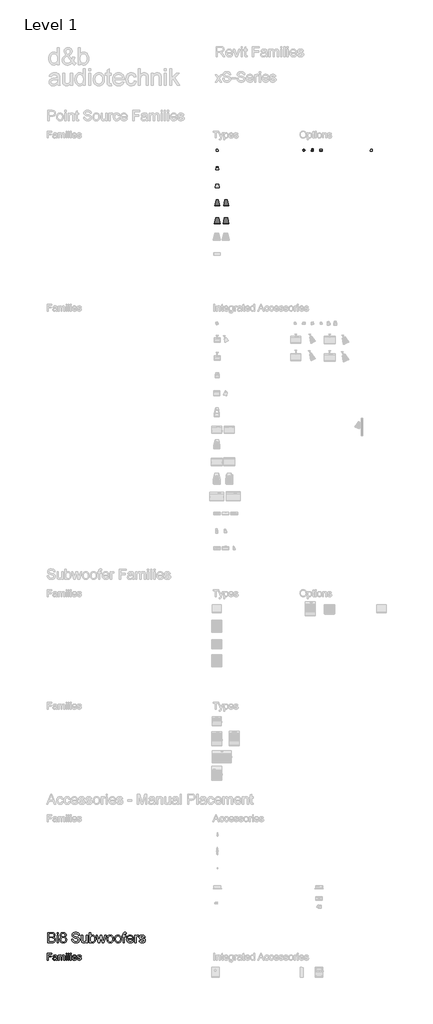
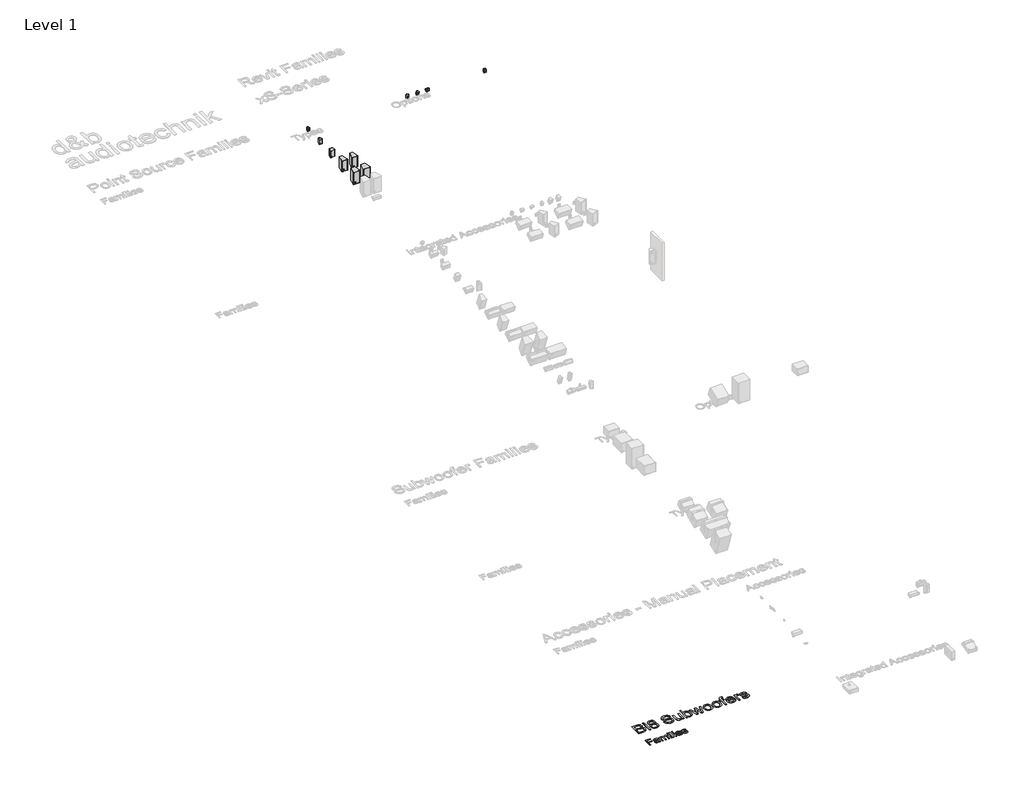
# One storey, part 2 of 12: 13 proxies.
"""IFC4 building model written with IfcOpenShell, lengths in millimetres."""

from ifc_helpers import new_model, si_unit, origin, origin_with_axes, place, context, project, spatial, polyline, outline, extrude, transform, mapped, element, save
from components import proxy_10s_97c97104, proxy_12s_5242e5fb, proxy_4s_3c42d015, proxy_4s_407254ed, proxy_4s_222f0351, proxy_4s_959aaee8, proxy_5s_5bde0faa, proxy_8s_ff0c01f1

model = new_model("IFC4")

# Units and contexts
model_context = context("Model", 3, world=origin())
ifc_project = project(units=[si_unit("LENGTHUNIT", "METRE", prefix="MILLI")], contexts=[model_context])

# Site, building, storey
site = spatial("IfcSite", under=ifc_project)
building = spatial("IfcBuilding", under=site)
storey = spatial("IfcBuildingStorey", under=building, Name="Level 1", Elevation=0.0)

# Proxies
placement = place(None, origin())
proxy_10s_shape = proxy_10s_97c97104(model_context)
element("IfcBuildingElementProxy", 1, Name="d&b xS-Series 10S Point Source : 10S-D", ObjectType="d&b xS-Series 10S Point Source : 10S-D", at=placement, inside=storey, context=model_context, shape_type="MappedRepresentation", body=[
    mapped(proxy_10s_shape, transform((-10731.9323727, 13546.5012301, 1000.0), x_axis=(1.0, 0.0, 0.0), y_axis=(0.0, 1.0, 0.0), z_axis=(0.0, 0.0, 1.0))),
])
proxy_12s_shape = proxy_12s_5242e5fb(model_context)
element("IfcBuildingElementProxy", 2, Name="d&b xS-Series 12S Point Source : 12S-D", ObjectType="d&b xS-Series 12S Point Source : 12S-D", at=placement, inside=storey, context=model_context, shape_type="MappedRepresentation", body=[
    mapped(proxy_12s_shape, transform((-10731.9323727, 12564.0992973, 1000.0), x_axis=(1.0, 0.0, 0.0), y_axis=(0.0, 1.0, 0.0), z_axis=(0.0, 0.0, 1.0))),
])
element("IfcBuildingElementProxy", 3, Name="d&b xS-Series 10S Point Source : 10S", ObjectType="d&b xS-Series 10S Point Source : 10S", at=placement, inside=storey, context=model_context, shape_type="MappedRepresentation", body=[
    mapped(proxy_10s_shape, transform((-11241.6434304, 13546.5012301, 1000.0), x_axis=(1.0, 0.0, 0.0), y_axis=(0.0, 1.0, 0.0), z_axis=(0.0, 0.0, 1.0))),
])
element("IfcBuildingElementProxy", 4, Name="d&b xS-Series 12S Point Source : 12S", ObjectType="d&b xS-Series 12S Point Source : 12S", at=placement, inside=storey, context=model_context, shape_type="MappedRepresentation", body=[
    mapped(proxy_12s_shape, transform((-11241.6434304, 12564.0992973, 1000.0), x_axis=(1.0, 0.0, 0.0), y_axis=(0.0, 1.0, 0.0), z_axis=(0.0, 0.0, 1.0))),
])
element("IfcBuildingElementProxy", 5, Name="400mm Arial", ObjectType="400mm Arial", at=placement, inside=storey, context=model_context, shape_type="SweptSolid", body=[
    extrude(outline(polyline([(-21056.720891, -30148.6945164), (-21056.720891, -29756.9369407), (-20793.5087698, -29756.9369407), (-20793.5087698, -29805.9066376), (-21007.7511941, -29805.9066376), (-21007.7511941, -29922.2096679), (-20824.1148304, -29922.2096679), (-20824.1148304, -29971.1793649), (-21007.7511941, -29971.1793649), (-21007.7511941, -30148.6945164), (-21056.720891, -30148.6945164)])), origin_with_axes(), (0.0, 0.0, 1.0), 5.0),
    extrude(outline(polyline([(-20548.660285, -30111.9672437), (-20572.0571836, -30132.02856), (-20596.1475009, -30145.1556907), (-20621.4811893, -30152.4007191), (-20648.6082016, -30154.8157285), (-20670.4120309, -30153.3631362), (-20689.5318522, -30149.0053592), (-20705.9676654, -30141.7423976), (-20719.7194706, -30131.5742513), (-20730.5780466, -30119.1465169), (-20738.3341723, -30105.104791), (-20742.9878477, -30089.4490737), (-20744.5390729, -30072.1793649), (-20742.1957963, -30051.8789388), (-20735.1659668, -30033.4435695), (-20724.3223352, -30017.6623195), (-20710.5376524, -30005.3242513), (-20676.2493001, -29989.2560695), (-20633.879035, -29981.8914861), (-20583.8094327, -29974.144327), (-20548.9472168, -29965.0581528), (-20548.660285, -29954.1547437), (-20552.0317338, -29932.3001035), (-20562.1460804, -29918.0013346), (-20584.7658721, -29907.3848573), (-20616.2805501, -29903.8460316), (-20645.4519516, -29906.2012636), (-20665.8241107, -29913.2669596), (-20679.7163929, -29926.3343128), (-20689.4481638, -29946.6945164), (-20738.4178607, -29940.5733043), (-20729.9175056, -29913.7930013), (-20717.2327282, -29892.7513346), (-20699.1799346, -29876.6592418), (-20674.5755312, -29864.7276604), (-20644.4835568, -29857.339166), (-20609.9680501, -29854.8763346), (-20576.8632916, -29857.0522342), (-20550.6209857, -29863.5799331), (-20530.8346458, -29873.3953924), (-20517.097785, -29885.4345732), (-20507.9876997, -29900.3191613), (-20502.0816865, -29918.6708422), (-20499.690588, -29961.519327), (-20499.690588, -30022.4445164), (-20497.2038456, -30107.5198005), (-20487.4481638, -30148.6945164), (-20536.4178607, -30148.6945164), (-20544.2606638, -30131.6698952), (-20548.660285, -30111.9672437)]), holes=[polyline([(-20548.660285, -30014.0278498), (-20581.5618001, -30022.1814956), (-20627.6621789, -30029.0439482), (-20669.7933342, -30036.9823952), (-20680.7565208, -30042.4101888), (-20688.8743001, -30049.894327), (-20693.8956069, -30058.8609464), (-20695.5693759, -30068.7361831), (-20691.9229507, -30083.2979729), (-20680.9836751, -30095.2295543), (-20662.990659, -30103.1919123), (-20638.1830122, -30105.8460316), (-20611.8809289, -30102.9169359), (-20588.6394516, -30094.129649), (-20569.7975956, -30081.1818507), (-20556.6943759, -30065.771221), (-20550.8840066, -30049.894327), (-20548.9472168, -30027.896221), (-20548.660285, -30014.0278498)])]), origin_with_axes(), (0.0, 0.0, 1.0), 5.0),
    extrude(outline(polyline([(-20432.3572547, -30148.6945164), (-20432.3572547, -29860.9975467), (-20383.3875577, -29860.9975467), (-20383.3875577, -29908.3412967), (-20368.658391, -29886.594256), (-20349.720891, -29869.5576793), (-20327.2206543, -29858.5466708), (-20301.8032774, -29854.8763346), (-20274.5686657, -29858.6184037), (-20252.7379365, -29869.8446111), (-20236.4306448, -29887.8137162), (-20225.7663456, -29911.7844785), (-20207.9167954, -29886.8871656), (-20187.5565918, -29869.1033706), (-20164.6857348, -29858.4330936), (-20139.3042244, -29854.8763346), (-20119.7002057, -29856.3558268), (-20102.4932632, -29860.7943034), (-20087.683397, -29868.1917643), (-20075.2706069, -29878.5482096), (-20065.4581365, -29891.9831942), (-20058.4492291, -29908.6162731), (-20054.2438846, -29928.4474461), (-20052.8421032, -29951.4767134), (-20052.8421032, -30148.6945164), (-20101.8118001, -30148.6945164), (-20101.8118001, -29972.5183801), (-20106.3548872, -29931.630596), (-20112.7391202, -29920.3565666), (-20122.8056448, -29911.4975467), (-20135.7534431, -29905.7589104), (-20150.7814971, -29903.8460316), (-20177.3107348, -29908.7477835), (-20198.9382206, -29923.4530392), (-20207.3279874, -29934.7330463), (-20213.320678, -29948.96606), (-20218.1148304, -29986.2911073), (-20218.1148304, -30148.6945164), (-20267.0845274, -30148.6945164), (-20267.0845274, -29967.0666755), (-20269.9179791, -29939.3777551), (-20278.4183342, -29919.6272816), (-20293.3746552, -29907.7913441), (-20315.5760047, -29903.8460316), (-20334.4417717, -29906.4762399), (-20351.8250577, -29914.3668649), (-20366.1716486, -29927.3266187), (-20375.9273304, -29945.1642134), (-20381.5225009, -29969.9120827), (-20383.3875577, -30003.6026604), (-20383.3875577, -30148.6945164), (-20432.3572547, -30148.6945164)])), origin_with_axes(), (0.0, 0.0, 1.0), 5.0),
    extrude(outline(polyline([(-19979.3875577, -30148.6945164), (-19979.3875577, -29860.9975467), (-19930.4178607, -29860.9975467), (-19930.4178607, -30148.6945164), (-19979.3875577, -30148.6945164)])), origin_with_axes(), (0.0, 0.0, 1.0), 5.0),
    extrude(outline(polyline([(-19979.3875577, -29805.9066376), (-19979.3875577, -29756.9369407), (-19930.4178607, -29756.9369407), (-19930.4178607, -29805.9066376), (-19979.3875577, -29805.9066376)])), origin_with_axes(), (0.0, 0.0, 1.0), 5.0),
    extrude(outline(polyline([(-19856.9633153, -30148.6945164), (-19856.9633153, -29756.9369407), (-19807.9936183, -29756.9369407), (-19807.9936183, -30148.6945164), (-19856.9633153, -30148.6945164)])), origin_with_axes(), (0.0, 0.0, 1.0), 5.0),
    extrude(outline(polyline([(-19734.5390729, -30148.6945164), (-19734.5390729, -29860.9975467), (-19685.5693759, -29860.9975467), (-19685.5693759, -30148.6945164), (-19734.5390729, -30148.6945164)])), origin_with_axes(), (0.0, 0.0, 1.0), 5.0),
    extrude(outline(polyline([(-19734.5390729, -29805.9066376), (-19734.5390729, -29756.9369407), (-19685.5693759, -29756.9369407), (-19685.5693759, -29805.9066376), (-19734.5390729, -29805.9066376)])), origin_with_axes(), (0.0, 0.0, 1.0), 5.0),
    extrude(outline(polyline([(-19410.6886941, -30062.9975467), (-19362.6754365, -30069.1187589), (-19370.0370309, -30088.3491684), (-19379.975034, -30105.2960789), (-19392.4894457, -30119.9594904), (-19407.580266, -30132.3394028), (-19425.0920736, -30142.1727953), (-19444.8694469, -30149.1966471), (-19491.220891, -30154.8157285), (-19521.605775, -30152.3917525), (-19548.6789876, -30145.1198242), (-19572.4405288, -30132.9999437), (-19592.8903986, -30116.0321111), (-19609.3351784, -30094.6885683), (-19621.0814497, -30069.4415571), (-19628.1292125, -30040.2910777), (-19630.4784668, -30007.2371301), (-19628.1053015, -29973.062355), (-19620.9858058, -29942.9404918), (-19609.1199796, -29916.8715406), (-19592.5078229, -29894.8555013), (-19572.1117528, -29877.3646159), (-19548.8941865, -29864.8711263), (-19522.855124, -29857.3750325), (-19493.9945653, -29854.8763346), (-19466.0635461, -29857.3690548), (-19440.8045795, -29864.8472153), (-19418.2176654, -29877.3108161), (-19398.3028039, -29894.7598573), (-19382.0463231, -29916.7280747), (-19370.4345511, -29942.7492039), (-19363.4674879, -29972.8232451), (-19361.1451335, -30006.9501982), (-19361.4320653, -30020.1490619), (-19581.5087698, -30020.1490619), (-19578.6723292, -30039.6903142), (-19573.0323257, -30056.8046017), (-19564.5887592, -30071.4919241), (-19553.3416297, -30083.7522816), (-19524.9234242, -30100.3225941), (-19490.2644516, -30105.8460316), (-19464.2014782, -30103.2875562), (-19442.2511941, -30095.6121301), (-19424.4135994, -30082.3415335), (-19410.6886941, -30062.9975467)]), holes=[polyline([(-19581.5087698, -29971.1793649), (-19410.1148304, -29971.1793649), (-19416.7381732, -29945.3076793), (-19429.721838, -29926.800577), (-19443.076123, -29916.7579634), (-19458.2715539, -29909.5846679), (-19494.1858532, -29903.8460316), (-19527.1949677, -29908.4249852), (-19554.4893569, -29922.161846), (-19573.4627234, -29943.5741329), (-19581.5087698, -29971.1793649)])]), origin_with_axes(), (0.0, 0.0, 1.0), 5.0),
    extrude(outline(polyline([(-19330.5390729, -30062.9975467), (-19281.5693759, -30056.8763346), (-19273.8461278, -30077.8223573), (-19258.9017622, -30093.2210316), (-19236.6406354, -30102.6897816), (-19206.9671032, -30105.8460316), (-19177.6522357, -30102.9528024), (-19157.0409668, -30094.2731149), (-19144.8463645, -30081.6959369), (-19140.7814971, -30067.1102361), (-19144.8702755, -30054.628702), (-19157.1366107, -30045.1121301), (-19207.5409668, -30031.1481149), (-19281.2824441, -30007.1893081), (-19299.9449677, -29995.1501272), (-19313.4666297, -29979.2134558), (-19321.680053, -29960.3955107), (-19324.4178607, -29939.7125089), (-19322.2180501, -29920.7391424), (-19315.6186183, -29903.224346), (-19305.2173399, -29887.8615382), (-19291.6119895, -29875.3441376), (-19260.4798872, -29860.8540808), (-19218.3487319, -29854.8763346), (-19186.4753891, -29857.2793886), (-19158.7625577, -29864.4885505), (-19136.4775198, -29875.7984464), (-19120.8875577, -29890.503702), (-19110.5580122, -29909.6922674), (-19104.0542244, -29934.4520922), (-19153.0239213, -29940.5733043), (-19159.2049109, -29925.1626746), (-19171.4353797, -29913.5538914), (-19189.8348825, -29906.2729965), (-19214.5229744, -29903.8460316), (-19242.6422925, -29906.1653971), (-19261.3885047, -29913.1234937), (-19271.933249, -29923.1661073), (-19275.4481638, -29934.739024), (-19269.6138835, -29948.989971), (-19251.345891, -29959.7977361), (-19209.1669138, -29970.2229255), (-19137.2904933, -29993.2731149), (-19118.3051713, -30004.2960789), (-19103.9107585, -30019.3839104), (-19094.8365397, -30038.5844312), (-19091.8118001, -30061.9454634), (-19095.3625814, -30086.0955581), (-19106.0149251, -30108.8109937), (-19123.3623446, -30128.3104018), (-19146.9983532, -30142.8124142), (-19175.5480691, -30151.8149), (-19207.6366107, -30154.8157285), (-19233.9924938, -30153.369114), (-19257.0127944, -30149.0292702), (-19276.6975127, -30141.7961973), (-19293.0466486, -30131.6698952), (-19306.4009336, -30118.6981859), (-19317.1010994, -30102.9288914), (-19325.1471458, -30084.3620117), (-19330.5390729, -30062.9975467)])), origin_with_axes(), (0.0, 0.0, 1.0), 5.0),
])
proxy_4s_shape = proxy_4s_3c42d015(model_context)
element("IfcBuildingElementProxy", 6, Name="d&b xS-Series 4S Point Source : 4S", ObjectType="d&b xS-Series 4S Point Source : 4S", at=placement, inside=storey, context=model_context, shape_type="MappedRepresentation", body=[
    mapped(proxy_4s_shape, transform((-11241.6434304, 16646.5012301, 1000.0), x_axis=(1.0, 0.0, 0.0), y_axis=(0.0, 1.0, 0.0), z_axis=(0.0, 0.0, 1.0))),
])
proxy_4s_2_shape = proxy_4s_407254ed(model_context)
element("IfcBuildingElementProxy", 7, Name="d&b xS-Series 4S Point Source : 4S", ObjectType="d&b xS-Series 4S Point Source : 4S", at=placement, inside=storey, context=model_context, shape_type="MappedRepresentation", body=[
    mapped(proxy_4s_2_shape, transform((-6241.6434304, 16646.5012301, 1000.0), x_axis=(1.0, 0.0, 0.0), y_axis=(0.0, 1.0, 0.0), z_axis=(0.0, 0.0, 1.0))),
])
proxy_4s_3_shape = proxy_4s_222f0351(model_context)
element("IfcBuildingElementProxy", 8, Name="d&b xS-Series 4S Point Source : 4S", ObjectType="d&b xS-Series 4S Point Source : 4S", at=placement, inside=storey, context=model_context, shape_type="MappedRepresentation", body=[
    mapped(proxy_4s_3_shape, transform((-5241.6434304, 16646.5012301, 1000.0), x_axis=(1.0, 0.0, 0.0), y_axis=(0.0, 1.0, 0.0), z_axis=(0.0, 0.0, 1.0))),
])
proxy_4s_4_shape = proxy_4s_959aaee8(model_context)
element("IfcBuildingElementProxy", 9, Name="d&b xS-Series 4S Point Source : 4S", ObjectType="d&b xS-Series 4S Point Source : 4S", at=placement, inside=storey, context=model_context, shape_type="MappedRepresentation", body=[
    mapped(proxy_4s_4_shape, transform((-5741.6434304, 16646.5012301, 1000.0), x_axis=(1.0, 0.0, 0.0), y_axis=(0.0, 1.0, 0.0), z_axis=(0.0, 0.0, 1.0))),
])
element("IfcBuildingElementProxy", 10, Name="d&b xS-Series 4S Point Source : 4S", ObjectType="d&b xS-Series 4S Point Source : 4S", at=placement, inside=storey, context=model_context, shape_type="MappedRepresentation", body=[
    mapped(proxy_4s_shape, transform((-2341.6434304, 16646.5012301, 1000.0), x_axis=(1.0, 0.0, 0.0), y_axis=(0.0, 1.0, 0.0), z_axis=(0.0, 0.0, 1.0))),
])
proxy_5s_shape = proxy_5s_5bde0faa(model_context)
element("IfcBuildingElementProxy", 11, Name="d&b xS-Series 5S Point Source : 5S", ObjectType="d&b xS-Series 5S Point Source : 5S", at=placement, inside=storey, context=model_context, shape_type="MappedRepresentation", body=[
    mapped(proxy_5s_shape, transform((-11241.6434304, 15595.5012301, 1000.0), x_axis=(1.0, 0.0, 0.0), y_axis=(0.0, 1.0, 0.0), z_axis=(0.0, 0.0, 1.0))),
])
element("IfcBuildingElementProxy", 12, Name="600mm Arial", ObjectType="600mm Arial", at=placement, inside=storey, context=model_context, shape_type="SweptSolid", body=[
    extrude(outline(polyline([(-21034.9539913, -29148.6945164), (-21034.9539913, -28557.9252857), (-20809.521299, -28557.9252857), (-20747.520097, -28562.2702376), (-20699.1126451, -28575.3050934), (-20662.0092797, -28597.3543722), (-20646.8380057, -28611.881115), (-20633.9203374, -28628.7425934), (-20616.2340393, -28665.6656703), (-20610.3386067, -28704.3195164), (-20615.2965393, -28739.8904299), (-20630.1703374, -28773.3339395), (-20655.068174, -28802.5947568), (-20690.098222, -28825.6175934), (-20667.810061, -28835.1187953), (-20648.2532701, -28847.4685549), (-20631.4278494, -28862.6668722), (-20617.333799, -28880.7137472), (-20606.1964792, -28901.0593001), (-20598.2412509, -28923.153651), (-20593.4681139, -28946.9968001), (-20591.8770682, -28972.5887472), (-20596.2220201, -29013.7846607), (-20609.2568759, -29051.9877857), (-20628.7100009, -29084.4757664), (-20652.3097605, -29108.5262472), (-20681.2100009, -29125.9421126), (-20716.5645682, -29138.5262472), (-20759.5273086, -29146.1524491), (-20811.2520682, -29148.6945164), (-21034.9539913, -29148.6945164)]), holes=[polyline([(-20961.1078374, -28797.9252857), (-20826.2520682, -28797.9252857), (-20779.0886067, -28796.3387472), (-20747.5020682, -28791.5791318), (-20719.9359624, -28780.6356222), (-20700.1222605, -28764.247401), (-20688.1691355, -28742.6668722), (-20684.1847605, -28716.1464395), (-20687.8987028, -28690.4012472), (-20699.0405297, -28667.9733626), (-20717.1054336, -28650.467353), (-20741.5886067, -28639.4877857), (-20779.160722, -28633.700526), (-20836.4924528, -28631.7714395), (-20961.1078374, -28631.7714395), (-20961.1078374, -28797.9252857)]), polyline([(-20961.1078374, -29074.8483626), (-20809.6655297, -29074.8483626), (-20754.8578374, -29071.9637472), (-20729.4191355, -29065.5635068), (-20708.4876451, -29055.8820164), (-20691.4684143, -29042.0178337), (-20677.7664913, -29023.0695164), (-20668.7340393, -28999.8844203), (-20665.723222, -28973.309901), (-20669.2568759, -28942.4445164), (-20679.8578374, -28915.9060549), (-20698.3734624, -28895.154853), (-20725.6511067, -28881.6512472), (-20764.286924, -28874.2413914), (-20816.8770682, -28871.7714395), (-20961.1078374, -28871.7714395), (-20961.1078374, -29074.8483626)])]), origin_with_axes(), (0.0, 0.0, 1.0), 5.0),
    extrude(outline(polyline([(-20499.5693759, -28631.7714395), (-20499.5693759, -28557.9252857), (-20425.723222, -28557.9252857), (-20425.723222, -28631.7714395), (-20499.5693759, -28631.7714395)])), origin_with_axes(), (0.0, 0.0, 1.0), 5.0),
    extrude(outline(polyline([(-20499.5693759, -29148.6945164), (-20499.5693759, -28714.8483626), (-20425.723222, -28714.8483626), (-20425.723222, -29148.6945164), (-20499.5693759, -29148.6945164)])), origin_with_axes(), (0.0, 0.0, 1.0), 5.0),
    extrude(outline(polyline([(-20225.8193759, -28823.309901), (-20265.3566355, -28803.8387472), (-20280.7036908, -28791.5070164), (-20293.1030297, -28777.4445164), (-20309.4912509, -28744.6680741), (-20314.9539913, -28706.0502857), (-20311.9792317, -28675.9330982), (-20303.0549528, -28648.3219203), (-20288.1811547, -28623.216752), (-20267.3578374, -28600.6175934), (-20241.5856018, -28581.9397087), (-20211.865049, -28568.5983626), (-20178.1961788, -28560.5935549), (-20140.5789913, -28557.9252857), (-20102.7815153, -28560.6566559), (-20068.8602413, -28568.8507664), (-20038.8151692, -28582.5076174), (-20012.646299, -28601.6272087), (-19991.4443759, -28624.6680741), (-19976.3001451, -28650.0887472), (-19967.2136067, -28677.889228), (-19964.1847605, -28708.0695164), (-19969.5753855, -28745.4433145), (-19985.7472605, -28777.6608626), (-20012.880674, -28803.8928337), (-20051.1559143, -28823.309901), (-20026.8845802, -28833.6359227), (-20005.7051932, -28846.7293722), (-19987.6177533, -28862.5902496), (-19972.6222605, -28881.2185549), (-19960.8539312, -28902.1996246), (-19952.4479817, -28925.1187953), (-19947.4044119, -28949.9760669), (-19945.723222, -28976.7714395), (-19949.0585586, -29013.6043722), (-19959.0645682, -29047.372401), (-19975.7412509, -29078.075526), (-19999.0886067, -29105.7137472), (-20027.880674, -29128.5562953), (-20060.8914913, -29144.872401), (-20098.1210586, -29154.6620645), (-20139.5693759, -29157.9252857), (-20181.0176932, -29154.6485429), (-20218.2472605, -29144.8183145), (-20251.2580778, -29128.4346006), (-20280.0501451, -29105.497401), (-20303.3975009, -29077.6653698), (-20320.0741836, -29046.5971607), (-20330.0801932, -29012.2927736), (-20333.4155297, -28974.7522087), (-20331.6667317, -28946.7353818), (-20326.4203374, -28921.0983626), (-20317.676347, -28897.841151), (-20305.4347605, -28876.9637472), (-20289.9660105, -28858.8447568), (-20271.5405297, -28843.8627857), (-20250.1583182, -28832.0178337), (-20225.8193759, -28823.309901)]), holes=[polyline([(-20259.5693759, -28972.1560549), (-20256.4864432, -29000.4072568), (-20247.2376451, -29027.7570164), (-20230.1643278, -29051.6091799), (-20203.6078374, -29069.3675934), (-20171.8049528, -29080.4012472), (-20138.9924528, -29084.0791318), (-20112.2917317, -29082.1455381), (-20088.7280297, -29076.3447568), (-20068.301347, -29066.6767881), (-20051.0116836, -29053.1416318), (-20037.255674, -29036.6227015), (-20027.4299528, -29018.0034107), (-20021.5345201, -28997.2837592), (-20019.5693759, -28974.4637472), (-20021.5976211, -28951.278651), (-20027.6823567, -28930.184901), (-20037.8235826, -28911.1824972), (-20052.021299, -28894.2714395), (-20069.7797124, -28880.389228), (-20090.6030297, -28870.4733626), (-20114.4912509, -28864.5238434), (-20141.4443759, -28862.5406703), (-20167.7529696, -28864.4968001), (-20191.005674, -28870.3651895), (-20211.2024889, -28880.1458385), (-20228.3434143, -28893.8387472), (-20242.0047725, -28910.4703578), (-20251.7628855, -28929.0671126), (-20257.6177533, -28949.6290116), (-20259.5693759, -28972.1560549)]), polyline([(-20241.1078374, -28708.2137472), (-20239.4717196, -28725.1428337), (-20234.5633663, -28740.4493241), (-20226.3827773, -28754.1332184), (-20214.9299528, -28766.1945164), (-20200.3491235, -28776.0382664), (-20182.7845201, -28783.0695164), (-20138.7039913, -28788.6945164), (-20095.6511067, -28783.1055741), (-20078.3975009, -28776.1193962), (-20063.9924528, -28766.3387472), (-20052.6342797, -28754.529853), (-20044.521299, -28741.4589395), (-20039.6535105, -28727.1260068), (-20038.0309143, -28711.5310549), (-20039.707597, -28695.3276294), (-20044.7376451, -28680.467353), (-20053.1210586, -28666.9502256), (-20064.8578374, -28654.7762472), (-20079.5874047, -28644.7116438), (-20096.9491836, -28637.5226414), (-20116.943174, -28633.20924), (-20139.5693759, -28631.7714395), (-20182.4600009, -28637.3964395), (-20199.8353014, -28644.4276895), (-20214.4972605, -28654.2714395), (-20226.1393879, -28666.0803337), (-20234.4551932, -28679.0070164), (-20239.4446764, -28693.0514876), (-20241.1078374, -28708.2137472)])]), origin_with_axes(), (0.0, 0.0, 1.0), 5.0),
    extrude(outline(polyline([(-19650.3386067, -28945.6175934), (-19576.4924528, -28945.6175934), (-19568.0188951, -28986.5971607), (-19552.6943759, -29019.5358626), (-19528.7881259, -29045.6776895), (-19494.5693759, -29066.2666318), (-19452.7424528, -29079.6260068), (-19406.0116836, -29084.0791318), (-19364.8698567, -29080.7077376), (-19328.848222, -29070.5935549), (-19299.6595201, -29054.5839395), (-19279.0164913, -29033.5262472), (-19266.738847, -29009.3495645), (-19262.646299, -28983.982978), (-19265.7112028, -28959.2654299), (-19274.9059143, -28937.9012472), (-19293.583799, -28919.6740837), (-19325.098222, -28904.3675934), (-19432.6222605, -28876.170478), (-19503.2051932, -28857.5106222), (-19548.3674528, -28839.7522087), (-19585.1282701, -28814.9084587), (-19611.1799528, -28784.8002857), (-19626.7027893, -28750.076728), (-19631.8770682, -28711.3868241), (-19630.2770081, -28689.396139), (-19625.4768278, -28668.1356222), (-19617.4765273, -28647.6052736), (-19606.2761067, -28627.8050934), (-19592.0017677, -28609.5418722), (-19574.7797124, -28593.622401), (-19554.6099408, -28580.0466799), (-19531.4924528, -28568.8147087), (-19479.5333182, -28553.7245645), (-19422.021299, -28548.6945164), (-19359.7136067, -28553.9589395), (-19305.1943759, -28569.7522087), (-19281.3422124, -28581.5160309), (-19260.410722, -28595.7498049), (-19242.3999047, -28612.4535309), (-19227.3097605, -28631.6272087), (-19215.2574768, -28652.7119443), (-19206.3602413, -28675.1488434), (-19200.6180538, -28698.9379059), (-19198.0309143, -28724.0791318), (-19271.8770682, -28724.0791318), (-19276.816972, -28700.5154299), (-19285.4347605, -28680.0166318), (-19297.7304336, -28662.5827376), (-19313.7039913, -28648.2137472), (-19333.6529095, -28636.981776), (-19357.8746643, -28628.9589395), (-19386.3692557, -28624.1452376), (-19419.1366836, -28622.5406703), (-19452.9497845, -28624.1272087), (-19481.8410105, -28628.8868241), (-19505.8103615, -28636.8195164), (-19524.8578374, -28647.9252857), (-19539.3710586, -28661.2756462), (-19549.7376451, -28675.9421126), (-19555.957597, -28691.9246847), (-19558.0309143, -28709.2233626), (-19552.1535105, -28737.6007664), (-19534.521299, -28760.4252857), (-19518.3313951, -28770.575526), (-19492.8386067, -28780.8339395), (-19413.9443759, -28801.6752857), (-19332.5261067, -28821.4709587), (-19283.271299, -28838.7425934), (-19241.1739432, -28865.5334587), (-19224.8984023, -28881.2816559), (-19211.8049528, -28898.5983626), (-19201.7403494, -28917.3934347), (-19194.551347, -28937.576728), (-19188.8001451, -28982.107978), (-19190.4542917, -29005.2074371), (-19195.4167317, -29027.6308145), (-19203.6874648, -29049.3781102), (-19215.2664913, -29070.4493241), (-19229.9509865, -29090.028651), (-19247.5381259, -29107.3002857), (-19268.0279095, -29122.264228), (-19291.4203374, -29134.920478), (-19317.0348206, -29144.9850813), (-19344.1907701, -29152.1740837), (-19403.1270682, -29157.9252857), (-19440.9020081, -29156.3748049), (-19475.4768278, -29151.7233626), (-19506.8515273, -29143.9709587), (-19535.0261067, -29133.1175934), (-19560.1718398, -29119.1452376), (-19582.4600009, -29102.0358626), (-19601.8905898, -29081.7894684), (-19618.4636067, -29058.4060549), (-19631.8139672, -29032.6428337), (-19641.5765874, -29005.2570164), (-19647.7514672, -28976.248603), (-19650.3386067, -28945.6175934)])), origin_with_axes(), (0.0, 0.0, 1.0), 5.0),
    extrude(outline(polyline([(-18810.3386067, -29148.6945164), (-18810.3386067, -29074.1272087), (-18837.0573567, -29110.7888674), (-18868.1751451, -29136.9757664), (-18903.691972, -29152.6879059), (-18943.6078374, -29157.9252857), (-18979.5753855, -29154.247401), (-19013.0549528, -29143.2137472), (-19041.1438951, -29126.6272087), (-19060.9395682, -29106.2906703), (-19074.2628855, -29081.591151), (-19082.9347605, -29051.9156703), (-19087.2616836, -28983.2618241), (-19087.2616836, -28714.8483626), (-19013.4155297, -28714.8483626), (-19013.4155297, -28948.5022087), (-19012.2977413, -28995.232978), (-19008.9443759, -29023.7906703), (-18998.1811547, -29048.904853), (-18979.7376451, -29067.997401), (-18954.8398086, -29080.0586991), (-18924.7136067, -29084.0791318), (-18892.8566355, -29079.9685549), (-18863.0549528, -29067.6368241), (-18838.4816355, -29048.2197568), (-18822.3097605, -29022.8531703), (-18813.3313951, -28988.1115837), (-18810.3386067, -28940.5695164), (-18810.3386067, -28714.8483626), (-18736.4924528, -28714.8483626), (-18736.4924528, -29148.6945164), (-18810.3386067, -29148.6945164)])), origin_with_axes(), (0.0, 0.0, 1.0), 5.0),
    extrude(outline(polyline([(-18561.1078374, -29148.6945164), (-18634.9539913, -29148.6945164), (-18634.9539913, -28557.9252857), (-18561.1078374, -28557.9252857), (-18561.1078374, -28777.0118241), (-18536.8229817, -28745.7768482), (-18509.4011067, -28723.466151), (-18478.8422124, -28710.0797328), (-18445.146299, -28705.6175934), (-18407.1054336, -28709.638026), (-18371.1559143, -28721.6993241), (-18339.3530297, -28741.044276), (-18313.7520682, -28766.9156703), (-18293.6859624, -28799.061103), (-18278.4876451, -28837.2281703), (-18268.9143278, -28879.8303337), (-18265.723222, -28925.2810549), (-18269.0270081, -28977.7269684), (-18278.9383663, -29023.8627857), (-18295.4572966, -29063.6885068), (-18318.583799, -29097.2041318), (-18346.3437148, -29123.7696366), (-18376.7628855, -29142.7449972), (-18409.841311, -29154.1302135), (-18445.5789913, -29157.9252857), (-18480.3836788, -29153.0304539), (-18511.240049, -29138.3459587), (-18538.1481018, -29113.8718001), (-18561.1078374, -29079.607978), (-18561.1078374, -29148.6945164)]), holes=[polyline([(-18561.1078374, -28928.7425934), (-18556.0597605, -28990.3291318), (-18549.7496643, -29013.6584587), (-18540.9155297, -29032.0118241), (-18523.0218999, -29054.7912712), (-18502.2256259, -29071.0623049), (-18478.5267076, -29080.8249251), (-18451.9251451, -29084.0791318), (-18429.8398086, -29081.6812953), (-18409.3049528, -29074.4877857), (-18390.3205778, -29062.498603), (-18372.8866836, -29045.7137472), (-18358.3103615, -29024.1782905), (-18347.8987028, -28997.9373049), (-18341.6517076, -28966.9907905), (-18339.5693759, -28931.3387472), (-18341.5660706, -28895.0106222), (-18347.5561547, -28863.7666318), (-18357.5396283, -28837.606776), (-18371.5164913, -28816.5310549), (-18388.3238831, -28800.3141078), (-18406.7989432, -28788.7305741), (-18426.9416716, -28781.7804539), (-18448.7520682, -28779.4637472), (-18470.8374047, -28781.8615837), (-18491.3722605, -28789.0550934), (-18510.3566355, -28801.044276), (-18527.7905297, -28817.8291318), (-18542.3668518, -28839.1482424), (-18552.7785105, -28864.7401895), (-18559.0255057, -28894.6049732), (-18561.1078374, -28928.7425934)])]), origin_with_axes(), (0.0, 0.0, 1.0), 5.0),
    extrude(outline(polyline([(-18110.6751451, -29148.6945164), (-18242.646299, -28714.8483626), (-18165.9155297, -28714.8483626), (-18091.0597605, -28967.9733626), (-18068.7039913, -29058.4060549), (-18050.3866836, -28971.2906703), (-17990.8193759, -28714.8483626), (-17902.8386067, -28714.8483626), (-17843.5597605, -28970.5695164), (-17827.2616836, -29049.4637472), (-17803.896299, -28966.2425934), (-17728.896299, -28714.8483626), (-17651.8770682, -28714.8483626), (-17784.8578374, -29148.6945164), (-17874.1366836, -29148.6945164), (-17930.8193759, -28894.2714395), (-17947.2616836, -28814.9445164), (-18020.3866836, -29148.6945164), (-18110.6751451, -29148.6945164)])), origin_with_axes(), (0.0, 0.0, 1.0), 5.0),
    extrude(outline(polyline([(-17619.5693759, -28931.7714395), (-17615.5759865, -28875.5845405), (-17603.5958182, -28827.1680741), (-17583.6288711, -28786.5220405), (-17555.6751451, -28753.6464395), (-17527.5321163, -28732.6338193), (-17496.4684143, -28717.6248049), (-17462.4840393, -28708.6193962), (-17425.5789913, -28705.6175934), (-17384.8383062, -28709.2729419), (-17348.0008663, -28720.2389876), (-17315.0666716, -28738.5157304), (-17286.035722, -28764.1031703), (-17262.341311, -28796.1359227), (-17245.4167317, -28833.748603), (-17235.2619841, -28876.9412111), (-17231.8770682, -28925.7137472), (-17233.3734624, -28965.2419924), (-17237.8626451, -29000.3171126), (-17245.3446163, -29030.9391078), (-17255.8193759, -29057.107978), (-17269.1562148, -29079.7116438), (-17285.224424, -29099.638026), (-17304.0240033, -29116.8871246), (-17325.5549528, -29131.4589395), (-17348.9789312, -29143.0379659), (-17373.457597, -29151.3086991), (-17398.9909504, -29156.271139), (-17425.5789913, -29157.9252857), (-17466.9146283, -29154.2834587), (-17504.0946163, -29143.357978), (-17537.1189552, -29125.1488434), (-17565.9876451, -29099.6560549), (-17589.4296523, -29067.3123049), (-17606.1739432, -29028.5502857), (-17616.2205177, -28983.3699972), (-17619.5693759, -28931.7714395)]), holes=[polyline([(-17545.723222, -28931.6272087), (-17543.5868038, -28967.4460188), (-17537.177549, -28998.4601414), (-17526.4954576, -29024.6695765), (-17511.5405297, -29046.0743241), (-17493.349424, -29062.7014275), (-17472.958799, -29074.5779299), (-17450.3686547, -29081.7038313), (-17425.5789913, -29084.0791318), (-17400.9155297, -29081.6903097), (-17378.4155297, -29074.5238434), (-17358.0789913, -29062.5797328), (-17339.9059143, -29045.857978), (-17324.9509865, -29024.2413914), (-17314.2688951, -28997.6127857), (-17307.8596403, -28965.9721607), (-17305.723222, -28929.3195164), (-17307.8731619, -28894.6365236), (-17314.3229817, -28864.4336991), (-17325.0726812, -28838.7110429), (-17340.1222605, -28817.4685549), (-17358.3629456, -28800.8414515), (-17378.6859624, -28788.9649491), (-17401.091311, -28781.8390477), (-17425.5789913, -28779.4637472), (-17450.3686547, -28781.8300333), (-17472.958799, -28788.9288914), (-17493.349424, -28800.7603217), (-17511.5405297, -28817.3243241), (-17526.4954576, -28838.6659708), (-17537.177549, -28864.8303337), (-17543.5868038, -28895.8174131), (-17545.723222, -28931.6272087)])]), origin_with_axes(), (0.0, 0.0, 1.0), 5.0),
    extrude(outline(polyline([(-17167.2616836, -28931.7714395), (-17163.2682942, -28875.5845405), (-17151.2881259, -28827.1680741), (-17131.3211788, -28786.5220405), (-17103.3674528, -28753.6464395), (-17075.224424, -28732.6338193), (-17044.160722, -28717.6248049), (-17010.176347, -28708.6193962), (-16973.271299, -28705.6175934), (-16932.5306139, -28709.2729419), (-16895.693174, -28720.2389876), (-16862.7589792, -28738.5157304), (-16833.7280297, -28764.1031703), (-16810.0336187, -28796.1359227), (-16793.1090393, -28833.748603), (-16782.9542917, -28876.9412111), (-16779.5693759, -28925.7137472), (-16781.0657701, -28965.2419924), (-16785.5549528, -29000.3171126), (-16793.036924, -29030.9391078), (-16803.5116836, -29057.107978), (-16816.8485225, -29079.7116438), (-16832.9167317, -29099.638026), (-16851.716311, -29116.8871246), (-16873.2472605, -29131.4589395), (-16896.6712389, -29143.0379659), (-16921.1499047, -29151.3086991), (-16946.6832581, -29156.271139), (-16973.271299, -29157.9252857), (-17014.606936, -29154.2834587), (-17051.786924, -29143.357978), (-17084.8112629, -29125.1488434), (-17113.6799528, -29099.6560549), (-17137.12196, -29067.3123049), (-17153.8662509, -29028.5502857), (-17163.9128254, -28983.3699972), (-17167.2616836, -28931.7714395)]), holes=[polyline([(-17093.4155297, -28931.6272087), (-17091.2791115, -28967.4460188), (-17084.8698567, -28998.4601414), (-17074.1877653, -29024.6695765), (-17059.2328374, -29046.0743241), (-17041.0417317, -29062.7014275), (-17020.6511067, -29074.5779299), (-16998.0609624, -29081.7038313), (-16973.271299, -29084.0791318), (-16948.6078374, -29081.6903097), (-16926.1078374, -29074.5238434), (-16905.771299, -29062.5797328), (-16887.598222, -29045.857978), (-16872.6432942, -29024.2413914), (-16861.9612028, -28997.6127857), (-16855.551948, -28965.9721607), (-16853.4155297, -28929.3195164), (-16855.5654696, -28894.6365236), (-16862.0152893, -28864.4336991), (-16872.7649889, -28838.7110429), (-16887.8145682, -28817.4685549), (-16906.0552533, -28800.8414515), (-16926.3782701, -28788.9649491), (-16948.7836187, -28781.8390477), (-16973.271299, -28779.4637472), (-16998.0609624, -28781.8300333), (-17020.6511067, -28788.9288914), (-17041.0417317, -28800.7603217), (-17059.2328374, -28817.3243241), (-17074.1877653, -28838.6659708), (-17084.8698567, -28864.8303337), (-17091.2791115, -28895.8174131), (-17093.4155297, -28931.6272087)])]), origin_with_axes(), (0.0, 0.0, 1.0), 5.0),
    extrude(outline(polyline([(-16678.0309143, -29148.6945164), (-16678.0309143, -28788.6945164), (-16742.646299, -28788.6945164), (-16742.646299, -28714.8483626), (-16678.0309143, -28714.8483626), (-16678.0309143, -28671.1464395), (-16676.083799, -28634.9805741), (-16670.2424528, -28609.559901), (-16655.3866836, -28585.0046126), (-16632.4539913, -28565.5695164), (-16600.3626451, -28552.9132664), (-16558.0309143, -28548.6945164), (-16525.9756259, -28550.7137472), (-16490.6751451, -28556.7714395), (-16501.4924528, -28626.0022087), (-16544.0405297, -28622.5406703), (-16572.1114432, -28625.6055741), (-16590.5549528, -28634.8002857), (-16600.7773086, -28652.3603818), (-16604.1847605, -28680.5214395), (-16604.1847605, -28714.8483626), (-16521.1078374, -28714.8483626), (-16521.1078374, -28788.6945164), (-16604.1847605, -28788.6945164), (-16604.1847605, -29148.6945164), (-16678.0309143, -29148.6945164)])), origin_with_axes(), (0.0, 0.0, 1.0), 5.0),
    extrude(outline(polyline([(-16152.7424528, -29019.4637472), (-16080.3386067, -29028.6945164), (-16091.4398687, -29057.6939155), (-16106.426347, -29083.2498049), (-16125.2980417, -29105.3621847), (-16148.0549528, -29124.0310549), (-16174.4627052, -29138.8597809), (-16204.286924, -29149.451728), (-16237.5276091, -29155.8068962), (-16274.1847605, -29157.9252857), (-16320.005073, -29154.2699371), (-16360.8313951, -29143.3038914), (-16396.6637268, -29125.0271486), (-16427.5020682, -29099.4397087), (-16452.3007461, -29067.2537111), (-16470.0140874, -29029.1812953), (-16480.6420922, -28985.2224611), (-16484.1847605, -28935.3772087), (-16480.6060345, -28883.841752), (-16469.8698567, -28838.4180741), (-16451.9762268, -28799.1061751), (-16426.9251451, -28765.9060549), (-16396.1679336, -28739.529853), (-16361.1559143, -28720.6897087), (-16321.8890874, -28709.3856222), (-16278.3674528, -28705.6175934), (-16236.247561, -28709.3766078), (-16198.1571163, -28720.653651), (-16164.0961187, -28739.4487232), (-16134.0645682, -28765.7618241), (-16109.5498446, -28798.8898289), (-16092.0393278, -28838.1296126), (-16081.5330177, -28883.4811751), (-16078.0309143, -28934.9445164), (-16078.4636067, -28954.8483626), (-16410.3386067, -28954.8483626), (-16406.0612629, -28984.3165116), (-16397.5561547, -29010.1248049), (-16384.8232821, -29032.2732424), (-16367.8626451, -29050.7618241), (-16347.6117437, -29065.3381462), (-16325.0080778, -29075.7498049), (-16300.0516475, -29081.9968001), (-16272.7424528, -29084.0791318), (-16233.4395682, -29080.2209587), (-16200.3386067, -29068.6464395), (-16173.4395682, -29048.6344203), (-16152.7424528, -29019.4637472)]), holes=[polyline([(-16410.3386067, -28881.0022087), (-16151.8770682, -28881.0022087), (-16161.865049, -28841.9877857), (-16170.4557942, -28826.6452376), (-16181.4443759, -28814.0791318), (-16201.582597, -28798.934901), (-16224.4972605, -28788.1175934), (-16250.1883663, -28781.6272087), (-16278.6559143, -28779.4637472), (-16304.62196, -28781.1900092), (-16328.4335586, -28786.3687953), (-16350.09071, -28795.0001054), (-16369.5934143, -28807.0839395), (-16385.9590994, -28822.0614034), (-16398.2051932, -28839.373603), (-16406.3316956, -28859.0205381), (-16410.3386067, -28881.0022087)])]), origin_with_axes(), (0.0, 0.0, 1.0), 5.0),
    extrude(outline(polyline([(-16004.1847605, -29148.6945164), (-16004.1847605, -28714.8483626), (-15939.5693759, -28714.8483626), (-15939.5693759, -28779.0310549), (-15915.6991836, -28741.8195164), (-15893.7039913, -28719.8964395), (-15871.6366836, -28709.1873049), (-15847.5501451, -28705.6175934), (-15810.771299, -28711.3147087), (-15773.4155297, -28728.4060549), (-15798.0789913, -28794.607978), (-15824.0405297, -28783.2498049), (-15850.0020682, -28779.4637472), (-15872.051347, -28783.1055741), (-15891.7568759, -28794.0310549), (-15907.676347, -28811.4108626), (-15918.3674528, -28834.4156703), (-15927.3458182, -28875.6656703), (-15930.3386067, -28920.6656703), (-15930.3386067, -29148.6945164), (-16004.1847605, -29148.6945164)])), origin_with_axes(), (0.0, 0.0, 1.0), 5.0),
    extrude(outline(polyline([(-15754.9539913, -29019.4637472), (-15681.1078374, -29010.232978), (-15676.645698, -29027.0719203), (-15669.4612028, -29041.8195164), (-15659.5543518, -29054.4757664), (-15646.9251451, -29065.0406703), (-15631.5375249, -29073.3699972), (-15613.3554336, -29079.3195164), (-15568.6078374, -29084.0791318), (-15524.4011067, -29079.716151), (-15507.2196163, -29074.2624251), (-15493.3193759, -29066.6272087), (-15474.9299528, -29047.6608626), (-15468.8001451, -29025.6656703), (-15470.3416115, -29015.6957184), (-15474.9660105, -29006.8435549), (-15493.4636067, -28992.4925934), (-15521.1198567, -28983.1175934), (-15569.473222, -28971.434901), (-15636.865049, -28951.9457184), (-15680.6751451, -28935.3050934), (-15708.818174, -28917.1500453), (-15729.208799, -28893.1175934), (-15741.5946163, -28864.7401895), (-15745.723222, -28833.5502857), (-15742.4059143, -28804.9385068), (-15732.4539913, -28778.5262472), (-15716.7688951, -28755.3591799), (-15696.2520682, -28736.482978), (-15675.8614432, -28724.6019684), (-15649.3049528, -28714.6320164), (-15618.6018278, -28707.8711991), (-15585.771299, -28705.6175934), (-15537.7063951, -28709.2413914), (-15495.9155297, -28720.1127857), (-15462.3097605, -28737.1680741), (-15438.8001451, -28759.3435549), (-15423.223222, -28788.279853), (-15413.4155297, -28825.6175934), (-15487.2616836, -28834.8483626), (-15496.582597, -28811.6091799), (-15515.0261067, -28794.1031703), (-15542.7725009, -28783.123603), (-15580.0020682, -28779.4637472), (-15622.4059143, -28782.9613434), (-15650.6751451, -28793.4541318), (-15666.5765874, -28808.5983626), (-15671.8770682, -28826.0502857), (-15669.677549, -28837.4084587), (-15663.0789913, -28847.5406703), (-15651.7929336, -28856.591151), (-15635.5309143, -28863.8387472), (-15571.9251451, -28879.559901), (-15463.535722, -28914.3195164), (-15434.9059143, -28930.9421126), (-15413.1991836, -28953.6945164), (-15399.5152893, -28982.6488434), (-15394.9539913, -29017.8772087), (-15400.3085586, -29054.295478), (-15416.3722605, -29088.5502857), (-15442.5321163, -29117.9553337), (-15478.1751451, -29139.8243241), (-15521.2280297, -29153.4000453), (-15569.6174528, -29157.9252857), (-15609.3620442, -29155.7437953), (-15644.0765874, -29149.1993241), (-15673.7610826, -29138.2918722), (-15698.4155297, -29123.0214395), (-15718.5537509, -29103.4601414), (-15734.6895682, -29079.6800934), (-15746.8229817, -29051.6812953), (-15754.9539913, -29019.4637472)])), origin_with_axes(), (0.0, 0.0, 1.0), 5.0),
])
proxy_8s_shape = proxy_8s_ff0c01f1(model_context)
element("IfcBuildingElementProxy", 13, Name="d&b xS-Series 8S Point Source : 8S", ObjectType="d&b xS-Series 8S Point Source : 8S", at=placement, inside=storey, context=model_context, shape_type="MappedRepresentation", body=[
    mapped(proxy_8s_shape, transform((-11241.6434304, 14574.8804066, 1000.0), x_axis=(1.0, 0.0, 0.0), y_axis=(0.0, 1.0, 0.0), z_axis=(0.0, 0.0, 1.0))),
])

save(model, "model.ifc")
